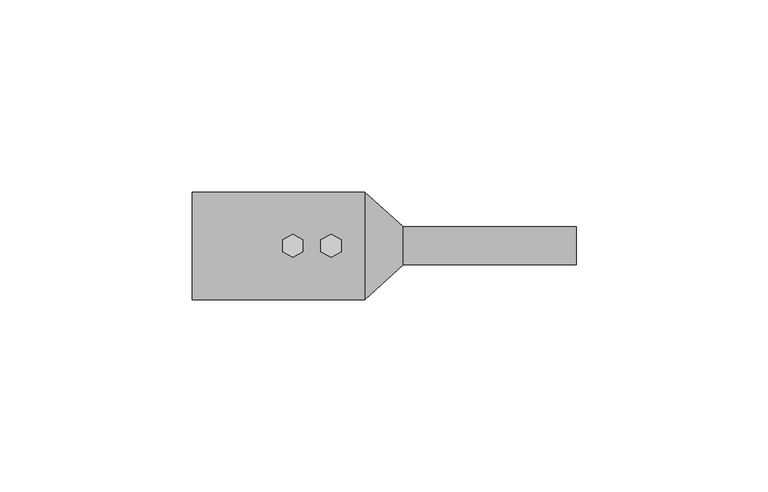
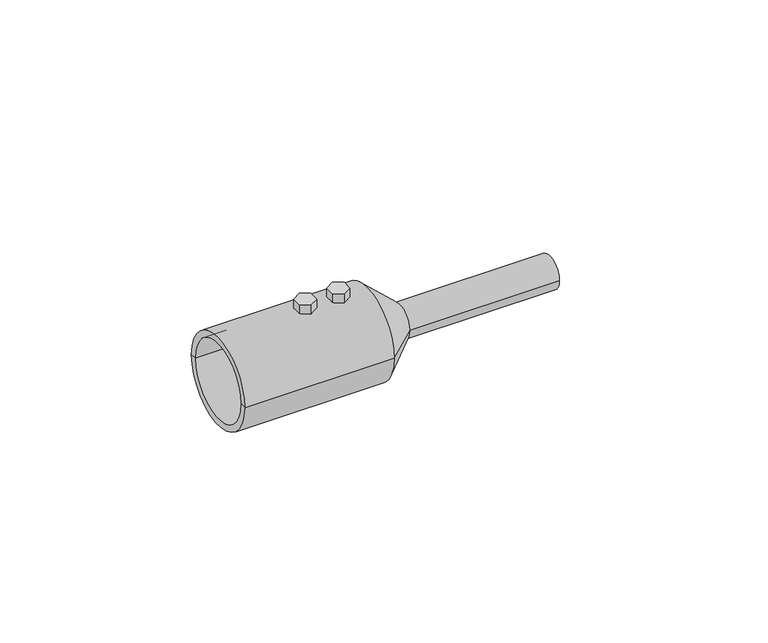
"""IFC4 building model written with IfcOpenShell, lengths in millimetres: duct fitting geometry, КНС_НаборУстановочныйДляПодключенияИзолированногоТокоотвода_DKC : NK0001_Сталь нержавеющая V2A."""

from ifc_helpers import new_model, si_unit, frame, origin, place, context, project, spatial, polyline, circle_curve, outline, extrude, source, transform, mapped, element, save
from ifc_brep_helpers import plane_surface, cylinder_surface, revolved_surface, advanced_brep


def duct_fitting_a82781f4(model_context):
    return source(origin(), model_context, "Body", "SolidModel", [
        advanced_brep(
        [(-44.232528, -14.0, 0.0), (-44.232528, 14.0, 0.0), (0.767472, 14.0, 0.0), (0.767472, -14.0, 0.0), (-44.232528, -12.0, 0.0), (-44.232528, 12.0, 0.0), (0.0, -12.0, 0.0), (0.0, 12.0, 0.0), (55.767472, -5.0, 0.0), (55.767472, 5.0, 0.0), (55.767472, 0.0, 0.0), (10.767472, -5.0, 0.0), (10.767472, 5.0, 0.0), (10.767472, -2.3092752, 0.0), (10.767472, 2.3092752, 0.0), (10.767472, 0.0, 0.0)],
        [
            (0, 1, circle_curve(frame((-44.232528, 0.0, 0.0), z_axis=(1.0, 0.0, 0.0), x_axis=(0.0, 1.0, 0.0)), 14.0)),
            (1, 2),
            (2, 3, circle_curve(frame((0.767472, 0.0, 0.0), z_axis=(-1.0, 0.0, 0.0), x_axis=(0.0, 1.0, 0.0)), 14.0)),
            (3, 0),
            (1, 0, circle_curve(frame((-44.232528, 0.0, 0.0), z_axis=(1.0, 0.0, 0.0), x_axis=(0.0, 1.0, 0.0)), 14.0)),
            (3, 2, circle_curve(frame((0.767472, 0.0, 0.0), z_axis=(-1.0, 0.0, 0.0), x_axis=(0.0, 1.0, 0.0)), 14.0)),
            (4, 5, circle_curve(frame((-44.232528, 0.0, 0.0), z_axis=(1.0, 0.0, 0.0), x_axis=(0.0, 1.0, 0.0)), 12.0)),
            (5, 1),
            (0, 4),
            (5, 4, circle_curve(frame((-44.232528, 0.0, 0.0), z_axis=(1.0, 0.0, 0.0), x_axis=(0.0, 1.0, 0.0)), 12.0)),
            (6, 7, circle_curve(frame((0.0, 0.0, 0.0), z_axis=(1.0, 0.0, 0.0), x_axis=(0.0, 1.0, 0.0)), 12.0)),
            (7, 5),
            (4, 6),
            (7, 6, circle_curve(frame((0.0, 0.0, 0.0), z_axis=(1.0, 0.0, 0.0), x_axis=(0.0, 1.0, 0.0)), 12.0)),
            (8, 9, circle_curve(frame((55.767472, 0.0, 0.0), z_axis=(1.0, 0.0, 0.0), x_axis=(0.0, 1.0, 0.0)), 5.0)),
            (9, 10),
            (10, 8),
            (9, 8, circle_curve(frame((55.767472, 0.0, 0.0), z_axis=(1.0, 0.0, 0.0), x_axis=(0.0, 1.0, 0.0)), 5.0)),
            (11, 12, circle_curve(frame((10.767472, 0.0, 0.0), z_axis=(1.0, 0.0, 0.0), x_axis=(0.0, 1.0, 0.0)), 5.0)),
            (12, 9),
            (8, 11),
            (12, 11, circle_curve(frame((10.767472, 0.0, 0.0), z_axis=(1.0, 0.0, 0.0), x_axis=(0.0, 1.0, 0.0)), 5.0)),
            (2, 12),
            (11, 3),
            (13, 14, circle_curve(frame((10.767472, 0.0, 0.0), z_axis=(1.0, 0.0, 0.0), x_axis=(0.0, 1.0, 0.0)), 2.3092752)),
            (14, 7),
            (6, 13),
            (14, 13, circle_curve(frame((10.767472, 0.0, 0.0), z_axis=(1.0, 0.0, 0.0), x_axis=(0.0, 1.0, 0.0)), 2.3092752)),
            (15, 14),
            (13, 15),
        ],
        [
            cylinder_surface(frame((1955.767472, 0.0, 0.0), z_axis=(-1.0, 0.0, 0.0), x_axis=(0.0, 1.0, 0.0)), 14.0),
            plane_surface(frame((-44.232528, 0.0, 0.0), z_axis=(-1.0, 0.0, 0.0), x_axis=(0.0, 1.0, 0.0))),
            revolved_surface(polyline([(-44.232528, 12.0, 0.0), (0.0, 12.0, 0.0)]), (1955.767472, 0.0, 0.0), (-1.0, 0.0, 0.0)),
            plane_surface(frame((55.767472, 0.0, 0.0), z_axis=(1.0, 0.0, 0.0), x_axis=(0.0, 1.0, 0.0))),
            cylinder_surface(frame((1955.767472, 0.0, 0.0), z_axis=(-1.0, 0.0, 0.0), x_axis=(0.0, 1.0, 0.0)), 5.0),
            revolved_surface(polyline([(10.767472, 5.0, 0.0), (0.767472, 14.0, 0.0)]), (1955.767472, 0.0, 0.0), (-1.0, 0.0, 0.0)),
            revolved_surface(polyline([(0.0, 12.0, 0.0), (10.767472, 2.3092752, 0.0)]), (1955.767472, 0.0, 0.0), (-1.0, 0.0, 0.0)),
            plane_surface(frame((10.767472, 0.0, 0.0), z_axis=(-1.0, 0.0, 0.0), x_axis=(0.0, 1.0, 0.0))),
        ],
        [
            (0, [[1, 2, 3, 4]]),
            (0, [[5, -4, 6, -2]]),
            (1, [[7, 8, -1, 9]]),
            (1, [[10, -9, -5, -8]]),
            (2, [[11, 12, -7, 13]]),
            (2, [[14, -13, -10, -12]]),
            (3, [[15, 16, 17]]),
            (3, [[18, -17, -16]]),
            (4, [[19, 20, -15, 21]]),
            (4, [[22, -21, -18, -20]]),
            (5, [[-3, 23, -19, 24]]),
            (5, [[-6, -24, -22, -23]]),
            (6, [[25, 26, -11, 27]]),
            (6, [[28, -27, -14, -26]]),
            (7, [[29, -25, 30]]),
            (7, [[-30, -28, -29]]),
        ],
    ),
        extrude(outline(polyline([(-5.4047055, -1.5137982), (-8.0266809, -3.0275964), (-10.6486563, -1.5137982), (-10.6486563, 1.5137982), (-8.0266809, 3.0275964), (-5.4047055, 1.5137982), (-5.4047055, -1.5137982)])), frame((0.0, 0.0, 14.0), z_axis=(0.0, 0.0, 1.0), x_axis=(1.0, 0.0, 0.0)), (0.0, 0.0, 1.0), 3.0),
        extrude(outline(polyline([(-15.4047055, -1.5137982), (-18.0266809, -3.0275964), (-20.6486563, -1.5137982), (-20.6486563, 1.5137982), (-18.0266809, 3.0275964), (-15.4047055, 1.5137982), (-15.4047055, -1.5137982)])), frame((0.0, 0.0, 14.0), z_axis=(0.0, 0.0, 1.0), x_axis=(1.0, 0.0, 0.0)), (0.0, 0.0, 1.0), 3.0),
    ])


if __name__ == "__main__":
    model = new_model("IFC4")
    model_context = context("Model", 3, world=origin())
    ifc_project = project(units=[si_unit("LENGTHUNIT", "METRE", prefix="MILLI")], contexts=[model_context])
    site = spatial("IfcSite", under=ifc_project)
    building = spatial("IfcBuilding", under=site)
    placement = place(None, origin())
    duct_fitting_shape = duct_fitting_a82781f4(model_context)
    element("IfcDuctFitting", 1, ObjectType="КНС_НаборУстановочныйДляПодключенияИзолированногоТокоотвода_DKC : NK0001_Сталь нержавеющая V2A", at=placement, inside=building, context=model_context, shape_type="MappedRepresentation", body=[
        mapped(duct_fitting_shape, transform((0.0, 0.0, 0.0), x_axis=(1.0, 0.0, 0.0), y_axis=(0.0, 1.0, 0.0), z_axis=(0.0, 0.0, 1.0))),
    ])
    save(model, "model.ifc")
